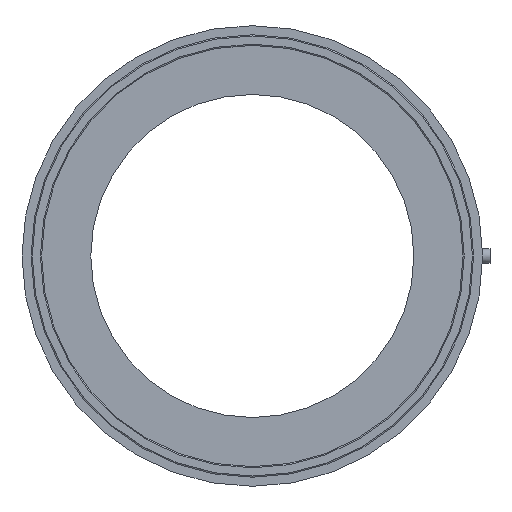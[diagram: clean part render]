
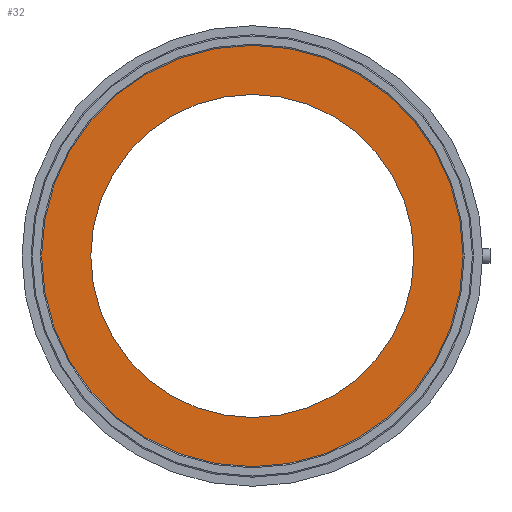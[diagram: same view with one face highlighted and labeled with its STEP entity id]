
A CAD part, front view. The second image highlights one B-rep face of the part: STEP entity #32.
In plain terms, the highlighted planar face has unit normal (0, -1, 0).
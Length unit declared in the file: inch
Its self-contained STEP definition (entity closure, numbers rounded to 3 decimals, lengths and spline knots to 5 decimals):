
#32 = ADVANCED_FACE ( 'NONE', ( #318, #324 ), #1115, .F. ) ;
#140 = ORIENTED_EDGE ( 'NONE', *, *, #939, .F. ) ;
#141 = ORIENTED_EDGE ( 'NONE', *, *, #986, .T. ) ;
#147 = ORIENTED_EDGE ( 'NONE', *, *, #973, .T. ) ;
#182 = ORIENTED_EDGE ( 'NONE', *, *, #944, .F. ) ;
#264 = EDGE_LOOP ( 'NONE', ( #141, #147 ) ) ;
#271 = EDGE_LOOP ( 'NONE', ( #182, #140 ) ) ;
#318 = FACE_BOUND ( 'NONE', #271, .T. ) ;
#324 = FACE_OUTER_BOUND ( 'NONE', #264, .T. ) ;
#362 = CIRCLE ( 'NONE', #822, 1.378 ) ;
#366 = CIRCLE ( 'NONE', #824, 1.378 ) ;
#405 = CIRCLE ( 'NONE', #882, 1.7975 ) ;
#419 = CIRCLE ( 'NONE', #910, 1.7975 ) ;
#614 = VERTEX_POINT ( 'NONE', #1193 ) ;
#621 = VERTEX_POINT ( 'NONE', #1198 ) ;
#644 = VERTEX_POINT ( 'NONE', #1029 ) ;
#646 = VERTEX_POINT ( 'NONE', #1047 ) ;
#709 = DIRECTION ( 'NONE',  ( 0., 0., 1. ) ) ;
#733 = CARTESIAN_POINT ( 'NONE',  ( 0., 0., 0. ) ) ;
#734 = DIRECTION ( 'NONE',  ( 0., -1., 0. ) ) ;
#747 = CARTESIAN_POINT ( 'NONE',  ( 0., 0., 0. ) ) ;
#748 = DIRECTION ( 'NONE',  ( 0., -1., 0. ) ) ;
#749 = DIRECTION ( 'NONE',  ( 0., 0., 1. ) ) ;
#822 = AXIS2_PLACEMENT_3D ( 'NONE', #1090, #1093, #1088 ) ;
#824 = AXIS2_PLACEMENT_3D ( 'NONE', #1084, #1076, #1091 ) ;
#846 = AXIS2_PLACEMENT_3D ( 'NONE', #1116, #1120, #1124 ) ;
#882 = AXIS2_PLACEMENT_3D ( 'NONE', #733, #734, #709 ) ;
#910 = AXIS2_PLACEMENT_3D ( 'NONE', #747, #748, #749 ) ;
#939 = EDGE_CURVE ( 'NONE', #646, #614, #362, .T. ) ;
#944 = EDGE_CURVE ( 'NONE', #614, #646, #366, .T. ) ;
#973 = EDGE_CURVE ( 'NONE', #621, #644, #405, .T. ) ;
#986 = EDGE_CURVE ( 'NONE', #644, #621, #419, .T. ) ;
#1029 = CARTESIAN_POINT ( 'NONE',  ( 0., 0., 1.7975 ) ) ;
#1047 = CARTESIAN_POINT ( 'NONE',  ( 0., 0., 1.378 ) ) ;
#1076 = DIRECTION ( 'NONE',  ( 0., -1., 0. ) ) ;
#1084 = CARTESIAN_POINT ( 'NONE',  ( 0., 0., 0. ) ) ;
#1088 = DIRECTION ( 'NONE',  ( 0., 0., -1. ) ) ;
#1090 = CARTESIAN_POINT ( 'NONE',  ( 0., 0., 0. ) ) ;
#1091 = DIRECTION ( 'NONE',  ( 0., 0., -1. ) ) ;
#1093 = DIRECTION ( 'NONE',  ( 0., -1., 0. ) ) ;
#1115 = PLANE ( 'NONE',  #846 ) ;
#1116 = CARTESIAN_POINT ( 'NONE',  ( 0., 0., 0. ) ) ;
#1120 = DIRECTION ( 'NONE',  ( 0., 1., 0. ) ) ;
#1124 = DIRECTION ( 'NONE',  ( 0., 0., 1. ) ) ;
#1193 = CARTESIAN_POINT ( 'NONE',  ( 0., 0., -1.378 ) ) ;
#1198 = CARTESIAN_POINT ( 'NONE',  ( 0., 0., -1.7975 ) ) ;
